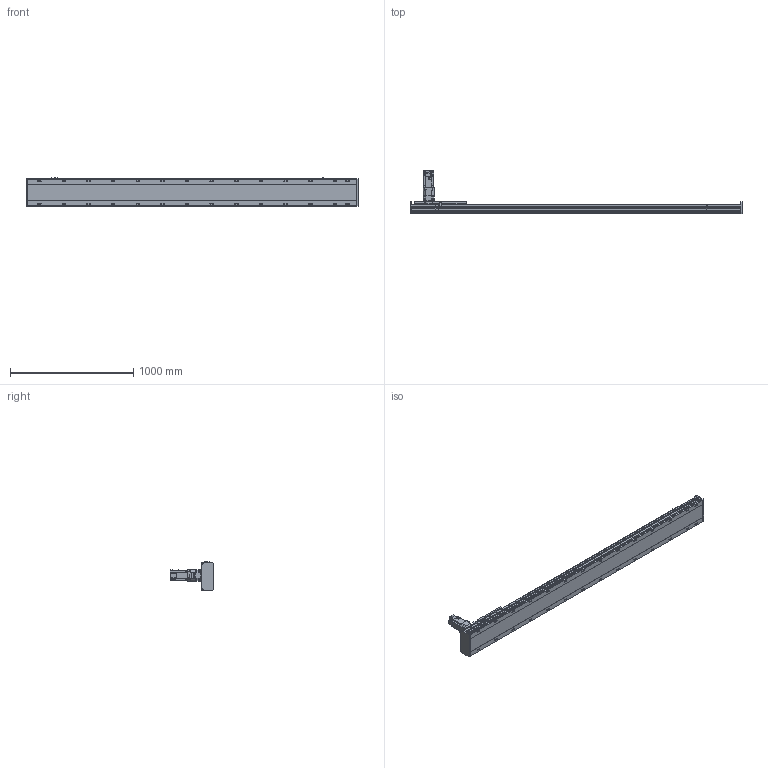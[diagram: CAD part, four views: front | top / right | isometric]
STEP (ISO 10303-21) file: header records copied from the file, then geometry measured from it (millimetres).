
FILE_DESCRIPTION(/* description */ ('STEP AP214'),/* implementation_level */ '2;1');
FILE_NAME(/* name */ 'SHS22A-L13-S2200-BC-T75-C1-N(0)',/* time_stamp */ '2022-06-15T02:27:18+02:00',/* author */ ('License CC BY-ND 4.0'),/* organization */ ('CADENAS'),/* preprocessor_version */ 'ST-DEVELOPER v18.102',/* originating_system */ 'PARTsolutions',/* authorisation */ ' ');
FILE_SCHEMA (('AUTOMOTIVE_DESIGN {1 0 10303 214 3 1 1}'));
Length unit declared in the file: millimetre
Products named in the file (7): SHS22A-L13-S2200-BC-T75-C1-N(0); PSC140-sensor; SHS22A-S2200_body2; T75-p1; SHS22A-S2200_body3; SHS22A-S2200_slider; SHS22A-L13-S2200-BC-T75-C1(0)_body
Assembly tree (13 placements, depth 2):
  SHS22A-L13-S2200-BC-T75-C1-N(0)
    PSC140-sensor  x3
    SHS22A-S2200_body2  x6
    T75-p1
    SHS22A-S2200_body3
    SHS22A-S2200_slider
    SHS22A-L13-S2200-BC-T75-C1(0)_body
Bounding box: 2694 x 350.8 x 238.4 mm (x, y, z)
Volume: 30235824.7 mm3; surface area: 3154330.8 mm2
Topology: 13 solids, 13 shells, 1869 faces, 4807 edges, 3148 vertices
Faces by surface type: plane 1336, cylinder 431, cone 93, torus 9
Full cylindrical faces by diameter (mm): 2.8 x3, 4.2 x2, 4.6 x3, 4.917 x4, 5 x4, 5.6 x24, 6 x31, 6.6 x24, 6.647 x8, 6.8 x9, 7.75 x6, 8 x3, 8.376 x28, 8.5 x28, 10 x4, 11 x4, 12 x24, 14 x28, 22 x1, 24.1 x1, 28 x1, 28.2 x1, 28.8 x1, 48.542 x1, 68 x1, 70 x1, 78 x1, 80 x2
Entity records: 30971 total; most frequent: CARTESIAN_POINT 5537, DIRECTION 5243, ORIENTED_EDGE 4764, EDGE_CURVE 2382, AXIS2_PLACEMENT_3D 1836, VERTEX_POINT 1710, FACE_BOUND 1604, EDGE_LOOP 1603
